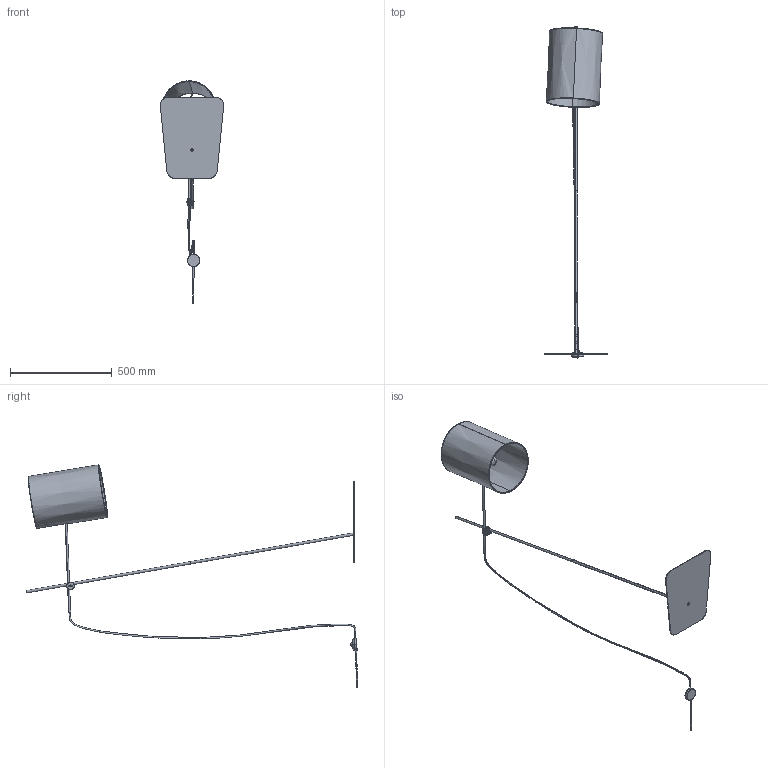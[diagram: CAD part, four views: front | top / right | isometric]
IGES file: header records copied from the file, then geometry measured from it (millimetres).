
Start section: SolidWorks IGES file using analytic representation for surfaces
Global section: file name: E:\3D lampy\Zelda\Folder roboczy\Zelda_6010.IGS; native system: SolidWorks 2016; preprocessor: SolidWorks 2016; author: Asia; date: 170607.110819; units: millimetre
Bounding box: 311.6 x 1632.13 x 1093.51 mm (x, y, z)
Surface area: 1018357.3 mm2 (no closed solid volume)
Topology: 0 solids, 0 shells, 505 faces, 9295 edges, 9268 vertices
Faces by surface type: revolution 257, bspline 248
